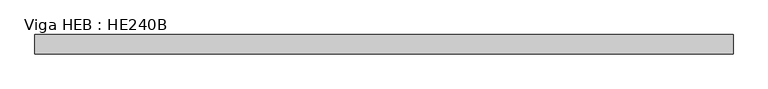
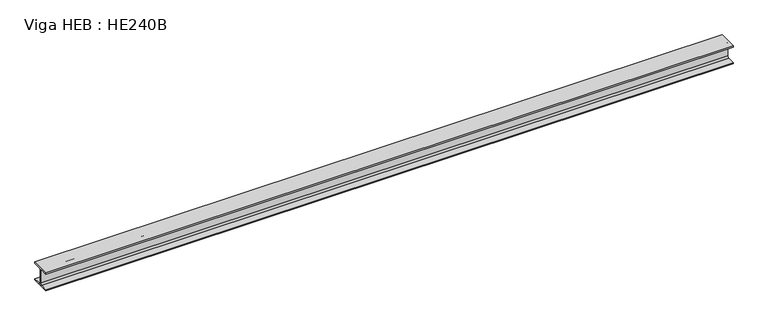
"""IFC4 building model written with IfcOpenShell, lengths in millimetres: beam geometry, Viga HEB : HE240B."""

from ifc_helpers import new_model, si_unit, point, frame, frame_2d, origin, place, context, project, spatial, polyline, circle_curve, trimmed, segment, composite_curve, outline, extrude, source, transform, mapped, element, save


def viga_heb_he240b_6fe5635d(model_context):
    return source(origin(), model_context, "Body", "SweptSolid", [
        extrude(outline(composite_curve([segment(polyline([(120.0, -103.0), (120.0, -120.0), (-120.0, -120.0), (-120.0, -103.0), (-26.0, -103.0)]), True, "CONTINUOUS"), segment(trimmed(circle_curve(frame_2d((-26.0, -82.0)), 21.0), [point((-26.0, -103.0))], [point((-5.0, -82.0))], True, "CARTESIAN"), True, "CONTINUOUS"), segment(polyline([(-5.0, -82.0), (-5.0, 82.0)]), True, "CONTINUOUS"), segment(trimmed(circle_curve(frame_2d((-26.0, 82.0)), 21.0), [point((-5.0, 82.0))], [point((-26.0, 103.0))], True, "CARTESIAN"), True, "CONTINUOUS"), segment(polyline([(-26.0, 103.0), (-120.0, 103.0), (-120.0, 120.0), (120.0, 120.0), (120.0, 103.0), (26.0, 103.0)]), True, "CONTINUOUS"), segment(trimmed(circle_curve(frame_2d((26.0, 82.0)), 21.0), [point((26.0, 103.0))], [point((5.0, 82.0))], True, "CARTESIAN"), True, "CONTINUOUS"), segment(polyline([(5.0, 82.0), (5.0, -82.0)]), True, "CONTINUOUS"), segment(trimmed(circle_curve(frame_2d((26.0, -82.0)), 21.0), [point((5.0, -82.0))], [point((26.0, -103.0))], True, "CARTESIAN"), True, "CONTINUOUS"), segment(polyline([(26.0, -103.0), (120.0, -103.0)]), True, "CONTINUOUS")], self_intersect=False)), frame((-4340.0, 0.0, 0.0), z_axis=(1.0, 0.0, 0.0), x_axis=(0.0, 1.0, 0.0)), (0.0, 0.0, 1.0), 8680.0),
    ])


if __name__ == "__main__":
    model = new_model("IFC4")
    model_context = context("Model", 3, world=origin())
    ifc_project = project(units=[si_unit("LENGTHUNIT", "METRE", prefix="MILLI")], contexts=[model_context])
    site = spatial("IfcSite", under=ifc_project)
    building = spatial("IfcBuilding", under=site)
    placement = place(None, origin())
    viga_heb_he240b_shape = viga_heb_he240b_6fe5635d(model_context)
    element("IfcBeam", 1, ObjectType="Viga HEB : HE240B", at=placement, inside=building, context=model_context, shape_type="MappedRepresentation", body=[
        mapped(viga_heb_he240b_shape, transform((0.0, 0.0, 0.0), x_axis=(1.0, 0.0, 0.0), y_axis=(0.0, 1.0, 0.0), z_axis=(0.0, 0.0, 1.0))),
    ])
    save(model, "model.ifc")
